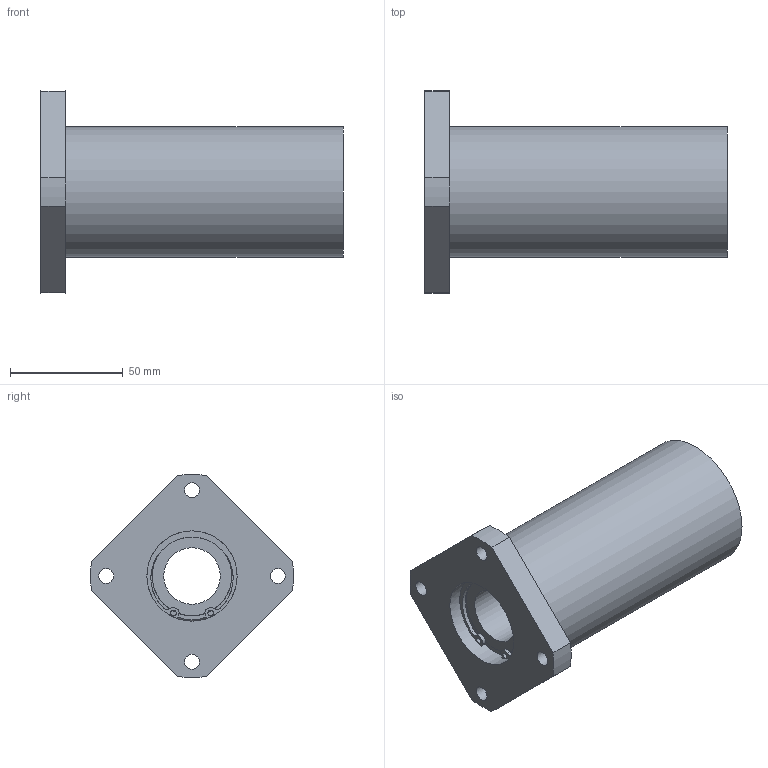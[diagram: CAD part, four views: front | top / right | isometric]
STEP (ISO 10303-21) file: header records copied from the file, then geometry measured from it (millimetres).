
FILE_DESCRIPTION((''),'2;1');
FILE_NAME('D:\製品 (図面)\カタログ用3D\リニアベアリング関連(改)\STEP形式\LFWK\LFWK25.stp','2010-01-22T15:58:32',('Tsuchiya'),(''),'Autodesk Inventor 10','Autodesk Inventor 10','');
FILE_SCHEMA(('AUTOMOTIVE_DESIGN { 1 0 10303 214 1 1 1 1 }'));
Length unit declared in the file: millimetre
Products named in the file (1): LFWK25
Bounding box: 134 x 89.9 x 89.9 mm (x, y, z)
Volume: 300322 mm3; surface area: 51869.2 mm2
Topology: 1 solids, 6 shells, 86 faces, 228 edges, 141 vertices
Faces by surface type: bspline 31, cylinder 28, plane 25, torus 2
Full cylindrical faces by diameter (mm): 2.5 x2, 6.647 x4, 25 x1, 35.3 x2, 38 x2, 40 x7, 58 x1
Entity records: 2722 total; most frequent: CARTESIAN_POINT 722, DIRECTION 430, ORIENTED_EDGE 362, AXIS2_PLACEMENT_3D 193, EDGE_CURVE 181, EDGE_LOOP 144, CIRCLE 137, VERTEX_POINT 125
